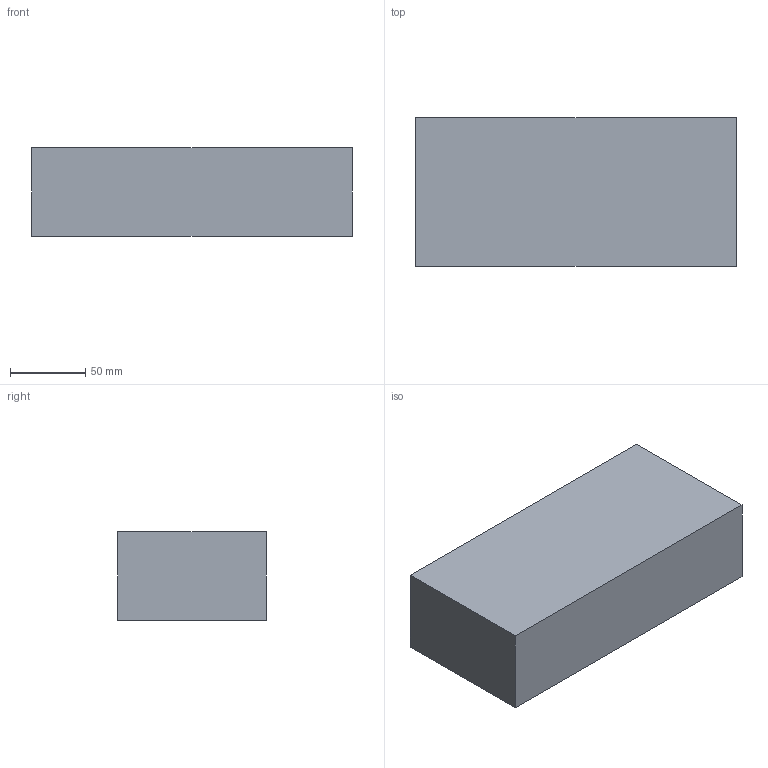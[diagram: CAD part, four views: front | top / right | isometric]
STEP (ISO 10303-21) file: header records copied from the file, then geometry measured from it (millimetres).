
FILE_DESCRIPTION(/* description */ ('STEP AP242 Edition 2','CAx-IF Rec.Pracs.---Representation and Presentation of Product Manufacturing Information (PMI)---4.0---2014-10-13','CAx-IF Rec.Pracs.---3D Tessellated Geometry---0.4---2014-09-14','2;1','CAx-IF Rec.Pracs.---User Defined Attributes---1.5---2016-08-15'),/* implementation_level */ '2;1');
FILE_NAME(/* name */ '697ce080fb3a1f3449468876',/* time_stamp */ '2026-01-30T16:46:56Z',/* author */ (''),/* organization */ (''),/* preprocessor_version */ 'ST-DEVELOPER v20',/* originating_system */ 'ONSHAPE BY PTC INC, 1.209',/* authorisation */ ' ');
FILE_SCHEMA (('AP242_MANAGED_MODEL_BASED_3D_ENGINEERING_MIM_LF { 1 0 10303 442 3 1 4 }'));
Length unit declared in the file: metre
Products named in the file (1): Part 1
Bounding box: 212.85 x 98.58 x 58.42 mm (x, y, z)
Volume: 88932 mm3; surface area: 113029.1 mm2
Topology: 1 solids, 1 shells, 11 faces, 24 edges, 16 vertices
Faces by surface type: plane 11
Entity records: 332 total; most frequent: CARTESIAN_POINT 52, ORIENTED_EDGE 48, DIRECTION 48, EDGE_CURVE 24, LINE 24, VECTOR 24, VERTEX_POINT 16, EDGE_LOOP 12
